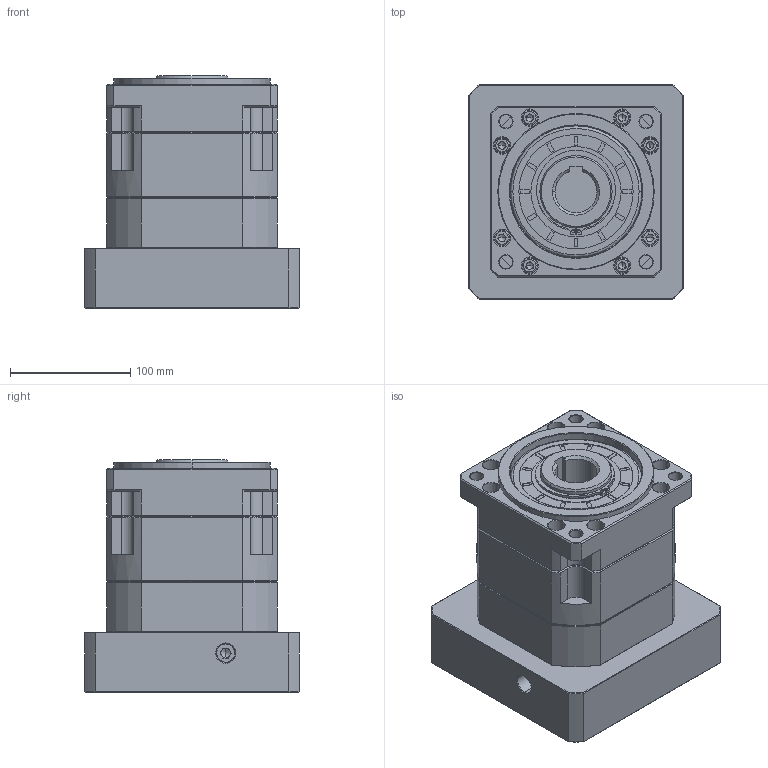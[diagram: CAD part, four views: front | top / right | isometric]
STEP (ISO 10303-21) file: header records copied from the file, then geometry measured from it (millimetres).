
FILE_DESCRIPTION (( 'STEP AP214' ), '1' );
FILE_NAME ('ZB142A-K35-L1-35-150-200-M12.step', '2023-03-17T10:49:14', ( '' ), ( '' ), 'SwSTEP 2.0', 'SolidWorks 2016', '' );
FILE_SCHEMA (( 'AUTOMOTIVE_DESIGN' ));
Length unit declared in the file: millimetre
Products named in the file (1): ZB142A-K35-L1-35-150-200-M12
Bounding box: 178 x 178 x 193.2 mm (x, y, z)
Volume: 3607257.9 mm3; surface area: 312412.8 mm2
Topology: 6 solids, 6 shells, 1965 faces, 5199 edges, 3332 vertices
Faces by surface type: plane 916, cylinder 377, cone 346, bspline 306, torus 20
Entity records: 107081 total; most frequent: CARTESIAN_POINT 39030, ORIENTED_EDGE 10342, DIRECTION 8576, EDGE_CURVE 5171, VERTEX_POINT 3332, VECTOR 3206, LINE 3206, AXIS2_PLACEMENT_3D 2685
